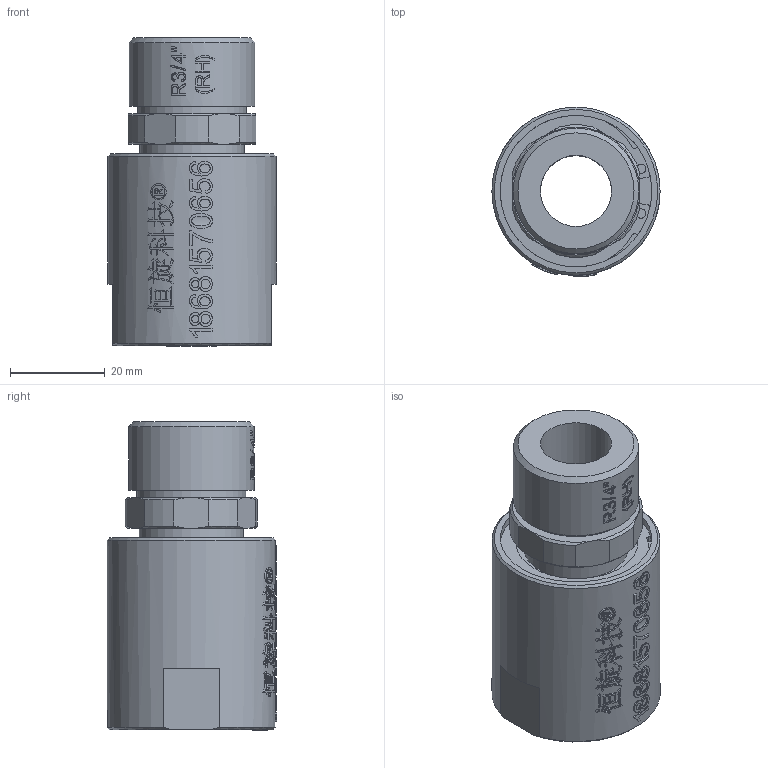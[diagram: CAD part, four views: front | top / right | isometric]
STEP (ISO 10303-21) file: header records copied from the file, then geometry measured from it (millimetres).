
FILE_DESCRIPTION(/* description */ (''),/* implementation_level */ '2;1');
FILE_NAME(/* name */ 'HQK0106(RH)-3D模型.stp',/* time_stamp */ '2025-07-09T09:27:17+08:00',/* author */ (''),/* organization */ (''),/* preprocessor_version */ 'ST-DEVELOPER v16.7',/* originating_system */ 'SIEMENS PLM Software NX 12.0',/* authorisation */ '');
FILE_SCHEMA (('AUTOMOTIVE_DESIGN { 1 0 10303 214 3 1 1 1 }'));
Length unit declared in the file: millimetre
Products named in the file (1): Admi1300D6723w90
Bounding box: 35.5 x 35.8 x 65.1 mm (x, y, z)
Volume: 36758.4 mm3; surface area: 13134.8 mm2
Topology: 1 solids, 1 shells, 910 faces, 2514 edges, 1671 vertices
Faces by surface type: extrusion 474, plane 329, cylinder 47, bspline 44, cone 16
Full cylindrical faces by diameter (mm): 2 x2, 15 x1, 22 x1, 23 x1, 24 x1, 26.5 x1, 32 x1, 33.3 x1, 35.5 x1
Entity records: 36949 total; most frequent: CARTESIAN_POINT 17912, ORIENTED_EDGE 4990, EDGE_CURVE 2495, B_SPLINE_CURVE_WITH_KNOTS 2492, DIRECTION 1819, VERTEX_POINT 1664, EDGE_LOOP 995, ADVANCED_FACE 910
